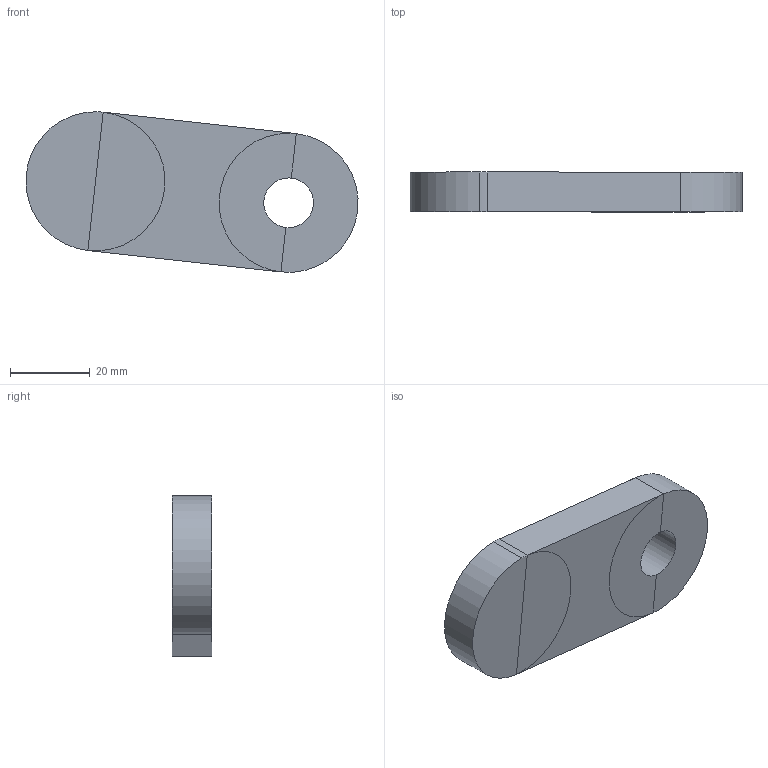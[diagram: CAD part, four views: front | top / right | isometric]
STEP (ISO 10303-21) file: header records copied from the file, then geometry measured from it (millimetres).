
FILE_DESCRIPTION(('Open CASCADE Model'),'2;1');
FILE_NAME('Open CASCADE Shape Model','2026-10-20T13:19:35',('Author'),( 'Open CASCADE'),'Open CASCADE STEP processor 7.9','Open CASCADE 7.9' ,'Unknown');
FILE_SCHEMA(('AUTOMOTIVE_DESIGN { 1 0 10303 214 1 1 1 1 }'));
Length unit declared in the file: millimetre
Products named in the file (1): Open CASCADE STEP translator 7.9 74
Bounding box: 83.52 x 10 x 40.35 mm (x, y, z)
Volume: 25503.3 mm3; surface area: 7570.6 mm2
Topology: 1 solids, 1 shells, 16 faces, 34 edges, 18 vertices
Faces by surface type: plane 12, cylinder 4
Full cylindrical faces by diameter (mm): 12.5 x1
Entity records: 880 total; most frequent: DIRECTION 154, CARTESIAN_POINT 137, ORIENTED_EDGE 68, PCURVE 68, DEFINITIONAL_REPRESENTATION 68, LINE 60, VECTOR 60, CIRCLE 42
